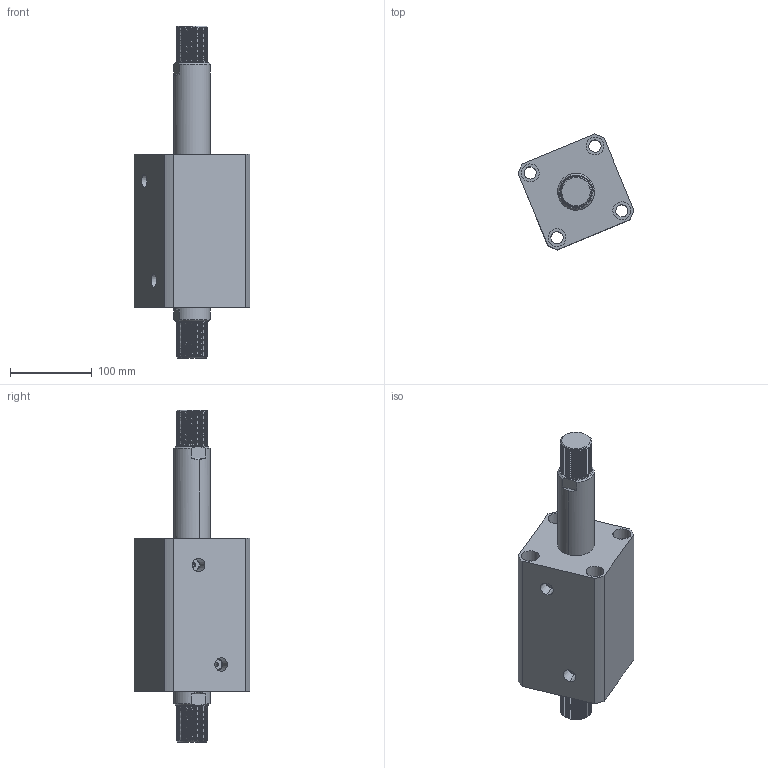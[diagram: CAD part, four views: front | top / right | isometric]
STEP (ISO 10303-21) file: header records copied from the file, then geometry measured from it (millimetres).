
FILE_DESCRIPTION (( 'STEP AP214' ), '1' );
FILE_NAME ('chtb-sw80x95w_asm.STEP', '2018-05-28T02:16:43', ( 'Windows' ), ( 'Microsoft' ), 'SwSTEP 2.0', 'SolidWorks 2015', '' );
FILE_SCHEMA (( 'AUTOMOTIVE_DESIGN' ));
Length unit declared in the file: millimetre
Products named in the file (4): CHTB-SW80X95WHSG; CHTB-SW80X95NBT; CHTB-SD80QG; chtb-sw80x95w_asm
Assembly tree (3 placements, depth 2):
  chtb-sw80x95w_asm
    CHTB-SD80QG
    CHTB-SW80X95NBT
    CHTB-SW80X95WHSG
Bounding box: 142.06 x 142.06 x 407 mm (x, y, z)
Volume: 2214600.7 mm3; surface area: 291989.4 mm2
Topology: 3 solids, 3 shells, 330 faces, 908 edges, 607 vertices
Faces by surface type: cylinder 221, plane 48, cone 25, bspline 18, torus 18
Entity records: 25864 total; most frequent: CARTESIAN_POINT 18238, ORIENTED_EDGE 1808, DIRECTION 1338, EDGE_CURVE 904, VERTEX_POINT 607, AXIS2_PLACEMENT_3D 532, EDGE_LOOP 373, FACE_OUTER_BOUND 330
